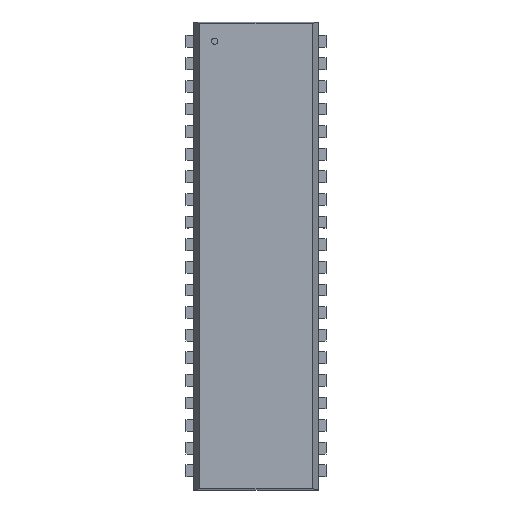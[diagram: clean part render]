
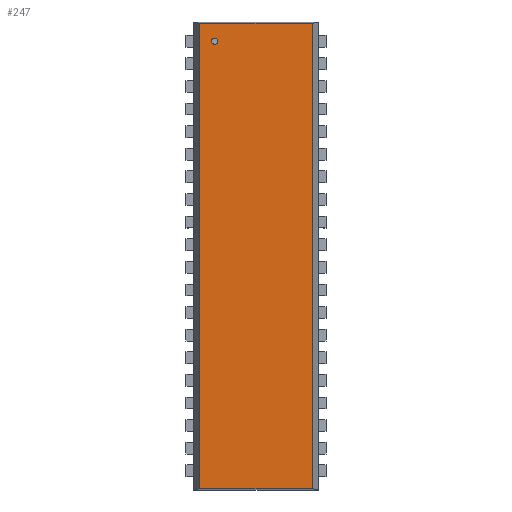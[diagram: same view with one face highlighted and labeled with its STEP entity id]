
A CAD part, top view. The second image highlights one B-rep face of the part: STEP entity #247.
In plain terms, the highlighted planar face has unit normal (0, 0, 1).
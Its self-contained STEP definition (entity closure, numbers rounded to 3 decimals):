
#247=ADVANCED_FACE('',(#253),#248,.T.);
#248=PLANE('',#249);
#249=AXIS2_PLACEMENT_3D('',#250,#251,#252);
#250=CARTESIAN_POINT('',(1.448,-50.267,5.207));
#251=DIRECTION('',(0.0,0.0,1.0));
#252=DIRECTION('',(0.,1.,0.));
#253=FACE_OUTER_BOUND('',#254,.T.);
#254=EDGE_LOOP('',(#255,#265,#275,#285));
#258=CARTESIAN_POINT('',(14.046,-50.267,5.207));
#257=VERTEX_POINT('',#258);
#260=CARTESIAN_POINT('',(1.448,-50.267,5.207));
#259=VERTEX_POINT('',#260);
#256=EDGE_CURVE('',#257,#259,#261,.T.);
#261=LINE('',#258,#263);
#263=VECTOR('',#264,12.598);
#264=DIRECTION('',(-1.0,0.0,0.0));
#255=ORIENTED_EDGE('',*,*,#256,.F.);
#268=CARTESIAN_POINT('',(14.046,2.007,5.207));
#267=VERTEX_POINT('',#268);
#266=EDGE_CURVE('',#267,#257,#271,.T.);
#271=LINE('',#268,#273);
#273=VECTOR('',#274,52.273);
#274=DIRECTION('',(0.0,-1.0,0.0));
#265=ORIENTED_EDGE('',*,*,#266,.F.);
#278=CARTESIAN_POINT('',(1.448,2.007,5.207));
#277=VERTEX_POINT('',#278);
#276=EDGE_CURVE('',#277,#267,#281,.T.);
#281=LINE('',#278,#283);
#283=VECTOR('',#284,12.598);
#284=DIRECTION('',(1.0,0.0,0.0));
#275=ORIENTED_EDGE('',*,*,#276,.F.);
#286=EDGE_CURVE('',#259,#277,#291,.T.);
#291=LINE('',#260,#293);
#293=VECTOR('',#294,52.273);
#294=DIRECTION('',(0.0,1.0,0.0));
#285=ORIENTED_EDGE('',*,*,#286,.F.);
